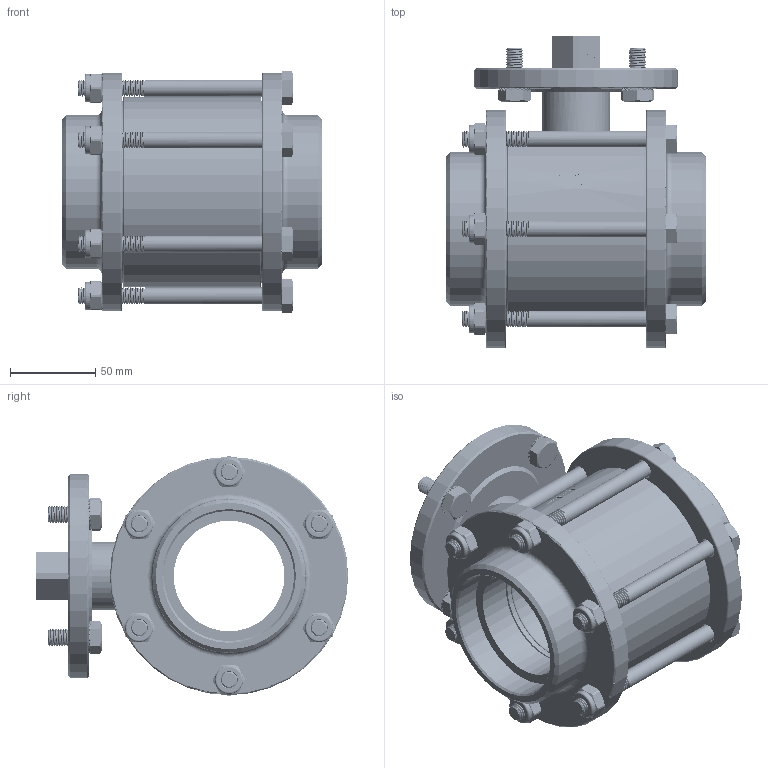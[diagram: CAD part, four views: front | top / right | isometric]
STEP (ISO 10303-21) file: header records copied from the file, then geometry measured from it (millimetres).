
FILE_DESCRIPTION((''),'2;1');
FILE_NAME('PARTE_VUOTA','2024-12-18T09:32:09',('tecnico2'),('CDM Tecnoconsulting'),'CREO PARAMETRIC BY PTC INC, 2024063','CREO PARAMETRIC BY PTC INC, 2024063','');
FILE_SCHEMA(('CONFIG_CONTROL_DESIGN','SHAPE_APPEARANCE_LAYERS_GROUPS'));
Length unit declared in the file: millimetre
Products named in the file (1): PARTE_VUOTA
Bounding box: 152.2 x 183.5 x 141.63 mm (x, y, z)
Volume: 1030552.1 mm3; surface area: 271561.6 mm2
Topology: 1 solids, 5 shells, 2403 faces, 6666 edges, 4306 vertices
Faces by surface type: cylinder 894, plane 746, cone 307, bspline 295, extrusion 111, torus 46, sphere 4
Entity records: 185422 total; most frequent: CARTESIAN_POINT 108632, ORIENTED_EDGE 13312, DIRECTION 9355, PRESENTATION_STYLE_ASSIGNMENT 6695, STYLED_ITEM 6657, CURVE_STYLE 6656, EDGE_CURVE 6656, VERTEX_POINT 4306
